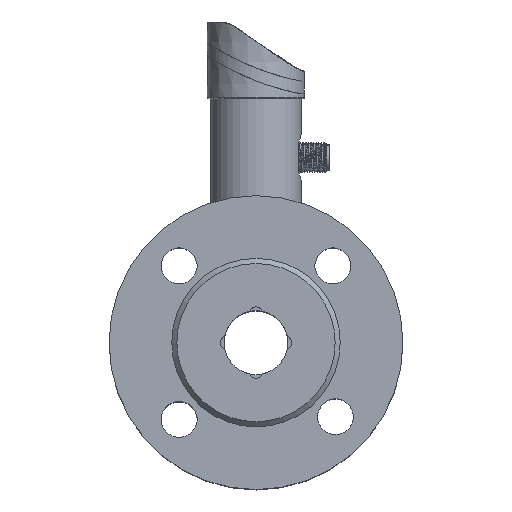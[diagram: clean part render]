
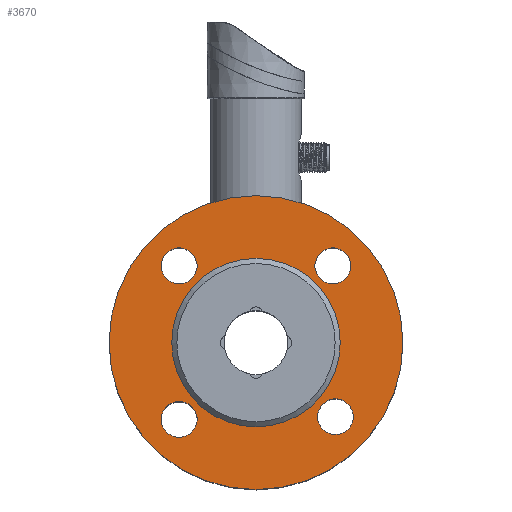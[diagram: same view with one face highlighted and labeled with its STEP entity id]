
A CAD part, top view. The second image highlights one B-rep face of the part: STEP entity #3670.
In plain terms, the highlighted planar face has unit normal (0, 0, 1).
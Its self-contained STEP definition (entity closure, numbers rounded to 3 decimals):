
#2307=FACE_BOUND('',#5513,.T.);
#2308=FACE_BOUND('',#5514,.T.);
#2309=FACE_BOUND('',#5515,.T.);
#2310=FACE_BOUND('',#5516,.T.);
#2311=FACE_BOUND('',#5517,.T.);
#2312=FACE_BOUND('',#5518,.T.);
#2913=CIRCLE('',#15952,32.963);
#2914=CIRCLE('',#15954,7.);
#2915=CIRCLE('',#15955,7.);
#2916=CIRCLE('',#15956,7.);
#2917=CIRCLE('',#15957,7.);
#2918=CIRCLE('',#15958,57.5);
#3670=ADVANCED_FACE('',(#2307,#2308,#2309,#2310,#2311,#2312),#3966,.T.);
#3966=PLANE('',#15959);
#5513=EDGE_LOOP('',(#9917));
#5514=EDGE_LOOP('',(#9918));
#5515=EDGE_LOOP('',(#9919));
#5516=EDGE_LOOP('',(#9920));
#5517=EDGE_LOOP('',(#9921));
#5518=EDGE_LOOP('',(#9922));
#9917=ORIENTED_EDGE('',*,*,#13098,.F.);
#9918=ORIENTED_EDGE('',*,*,#13099,.F.);
#9919=ORIENTED_EDGE('',*,*,#13100,.F.);
#9920=ORIENTED_EDGE('',*,*,#13101,.F.);
#9921=ORIENTED_EDGE('',*,*,#13102,.F.);
#9922=ORIENTED_EDGE('',*,*,#13097,.T.);
#11225=VERTEX_POINT('',#34050);
#11226=VERTEX_POINT('',#34053);
#11227=VERTEX_POINT('',#34055);
#11228=VERTEX_POINT('',#34057);
#11229=VERTEX_POINT('',#34059);
#11230=VERTEX_POINT('',#34061);
#13097=EDGE_CURVE('',#11225,#11225,#2913,.T.);
#13098=EDGE_CURVE('',#11226,#11226,#2914,.T.);
#13099=EDGE_CURVE('',#11227,#11227,#2915,.T.);
#13100=EDGE_CURVE('',#11228,#11228,#2916,.T.);
#13101=EDGE_CURVE('',#11229,#11229,#2917,.T.);
#13102=EDGE_CURVE('',#11230,#11230,#2918,.T.);
#15952=AXIS2_PLACEMENT_3D('',#34049,#18971,#18972);
#15954=AXIS2_PLACEMENT_3D('',#34052,#18975,#18976);
#15955=AXIS2_PLACEMENT_3D('',#34054,#18977,#18978);
#15956=AXIS2_PLACEMENT_3D('',#34056,#18979,#18980);
#15957=AXIS2_PLACEMENT_3D('',#34058,#18981,#18982);
#15958=AXIS2_PLACEMENT_3D('',#34060,#18983,#18984);
#15959=AXIS2_PLACEMENT_3D('',#34062,#18985,#18986);
#18971=DIRECTION('',(0.,0.,-1.));
#18972=DIRECTION('',(1.,0.,0.));
#18975=DIRECTION('',(0.,0.,1.));
#18976=DIRECTION('',(0.707,0.707,0.));
#18977=DIRECTION('',(0.,0.,1.));
#18978=DIRECTION('',(0.707,0.707,0.));
#18979=DIRECTION('',(0.,0.,1.));
#18980=DIRECTION('',(0.707,0.707,0.));
#18981=DIRECTION('',(0.,0.,1.));
#18982=DIRECTION('',(0.707,0.707,0.));
#18983=DIRECTION('',(0.,0.,-1.));
#18984=DIRECTION('',(1.,0.,0.));
#18985=DIRECTION('',(0.,0.,1.));
#18986=DIRECTION('',(1.,0.,0.));
#34049=CARTESIAN_POINT('',(0.,-4.5,35.8));
#34050=CARTESIAN_POINT('',(32.963,-4.5,35.8));
#34052=CARTESIAN_POINT('',(-30.052,-34.552,35.8));
#34053=CARTESIAN_POINT('',(-25.102,-29.602,35.8));
#34054=CARTESIAN_POINT('',(-30.052,25.552,35.8));
#34055=CARTESIAN_POINT('',(-25.102,30.502,35.8));
#34056=CARTESIAN_POINT('',(31.091,-33.476,35.8));
#34057=CARTESIAN_POINT('',(36.04,-28.527,35.8));
#34058=CARTESIAN_POINT('',(30.052,25.552,35.8));
#34059=CARTESIAN_POINT('',(35.002,30.502,35.8));
#34060=CARTESIAN_POINT('',(0.,-4.5,35.8));
#34061=CARTESIAN_POINT('',(57.5,-4.5,35.8));
#34062=CARTESIAN_POINT('',(0.,-4.5,35.8));
